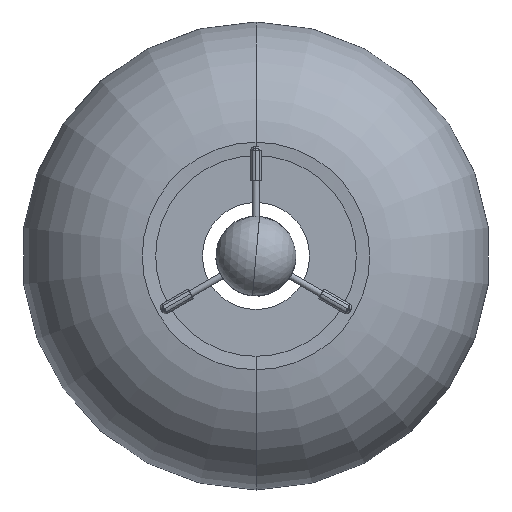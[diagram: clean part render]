
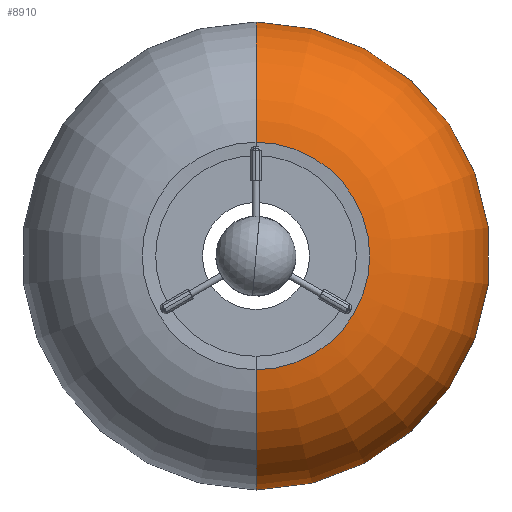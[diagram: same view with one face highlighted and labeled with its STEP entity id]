
A CAD part, front view. The second image highlights one B-rep face of the part: STEP entity #8910.
In plain terms, the highlighted toroidal (fillet/blend) face has major radius 75 mm and minor radius 100 mm.
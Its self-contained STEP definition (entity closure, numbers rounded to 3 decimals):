
#84 = CARTESIAN_POINT ( 'NONE',  ( 0., -99.499, 85. ) ) ;
#467 = AXIS2_PLACEMENT_3D ( 'NONE', #1050, #8818, #3922 ) ;
#905 = TOROIDAL_SURFACE ( 'NONE', #467, 75., 100. ) ;
#974 = ORIENTED_EDGE ( 'NONE', *, *, #7738, .T. ) ;
#1050 = CARTESIAN_POINT ( 'NONE',  ( 0., 0., 0. ) ) ;
#1284 = CARTESIAN_POINT ( 'NONE',  ( 0., 0., 75. ) ) ;
#1390 = AXIS2_PLACEMENT_3D ( 'NONE', #3195, #3876, #8075 ) ;
#1609 = CIRCLE ( 'NONE', #4509, 85. ) ;
#1729 = ORIENTED_EDGE ( 'NONE', *, *, #4707, .T. ) ;
#2045 = CARTESIAN_POINT ( 'NONE',  ( 0., 100., 0. ) ) ;
#2619 = EDGE_LOOP ( 'NONE', ( #1729, #974, #4705, #9129 ) ) ;
#2941 = CARTESIAN_POINT ( 'NONE',  ( 0., -99.499, -85. ) ) ;
#3007 = VERTEX_POINT ( 'NONE', #2941 ) ;
#3188 = DIRECTION ( 'NONE',  ( 0., 0., 1. ) ) ;
#3195 = CARTESIAN_POINT ( 'NONE',  ( 0., 0., -75. ) ) ;
#3876 = DIRECTION ( 'NONE',  ( 1., 0., 0. ) ) ;
#3896 = CARTESIAN_POINT ( 'NONE',  ( 0., -99.499, 0. ) ) ;
#3922 = DIRECTION ( 'NONE',  ( 0., 0., 1. ) ) ;
#4401 = EDGE_CURVE ( 'NONE', #5704, #7720, #5440, .T. ) ;
#4509 = AXIS2_PLACEMENT_3D ( 'NONE', #3896, #5340, #3188 ) ;
#4705 = ORIENTED_EDGE ( 'NONE', *, *, #6942, .F. ) ;
#4707 = EDGE_CURVE ( 'NONE', #5704, #3007, #1609, .T. ) ;
#4857 = CIRCLE ( 'NONE', #8972, 75. ) ;
#5340 = DIRECTION ( 'NONE',  ( 0., 1., 0. ) ) ;
#5440 = CIRCLE ( 'NONE', #8959, 100. ) ;
#5455 = DIRECTION ( 'NONE',  ( 0., 1., 0. ) ) ;
#5704 = VERTEX_POINT ( 'NONE', #84 ) ;
#6171 = CARTESIAN_POINT ( 'NONE',  ( 0., 100., -75. ) ) ;
#6904 = DIRECTION ( 'NONE',  ( 0., 0., 1. ) ) ;
#6942 = EDGE_CURVE ( 'NONE', #7720, #7386, #4857, .T. ) ;
#6969 = DIRECTION ( 'NONE',  ( 0., 0., 1. ) ) ;
#7386 = VERTEX_POINT ( 'NONE', #6171 ) ;
#7720 = VERTEX_POINT ( 'NONE', #8488 ) ;
#7738 = EDGE_CURVE ( 'NONE', #3007, #7386, #8629, .T. ) ;
#8075 = DIRECTION ( 'NONE',  ( 0., 0., -1. ) ) ;
#8390 = FACE_OUTER_BOUND ( 'NONE', #2619, .T. ) ;
#8488 = CARTESIAN_POINT ( 'NONE',  ( 0., 100., 75. ) ) ;
#8629 = CIRCLE ( 'NONE', #1390, 100. ) ;
#8818 = DIRECTION ( 'NONE',  ( 0., 1., 0. ) ) ;
#8910 = ADVANCED_FACE ( 'NONE', ( #8390 ), #905, .T. ) ;
#8959 = AXIS2_PLACEMENT_3D ( 'NONE', #1284, #9029, #6904 ) ;
#8972 = AXIS2_PLACEMENT_3D ( 'NONE', #2045, #5455, #6969 ) ;
#9029 = DIRECTION ( 'NONE',  ( -1., 0., 0. ) ) ;
#9129 = ORIENTED_EDGE ( 'NONE', *, *, #4401, .F. ) ;
